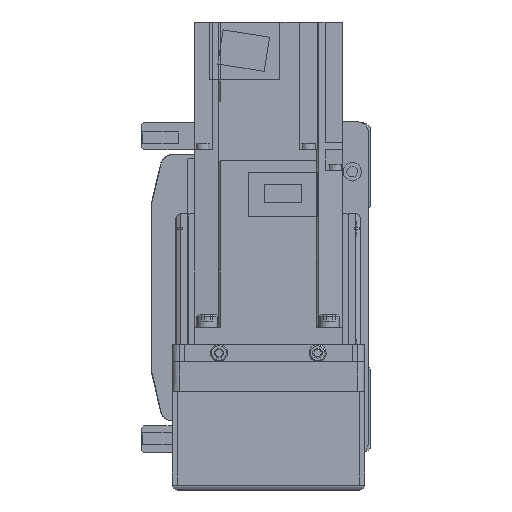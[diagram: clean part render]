
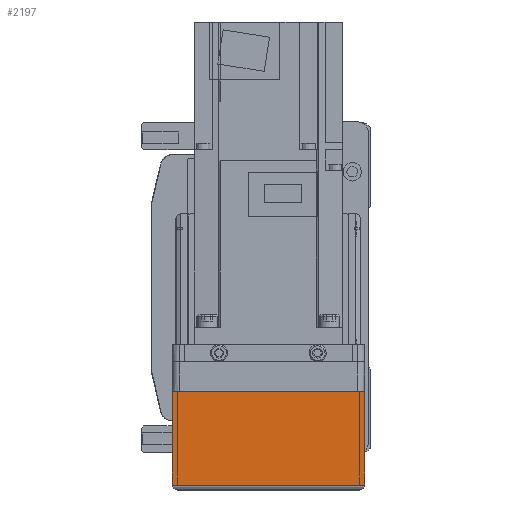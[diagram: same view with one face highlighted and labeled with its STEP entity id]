
A CAD part, left-side view. The second image highlights one B-rep face of the part: STEP entity #2197.
In plain terms, the highlighted planar face has unit normal (-1, 0, 0).
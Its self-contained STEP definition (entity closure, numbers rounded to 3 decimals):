
#2197 = ADVANCED_FACE( '', ( #5244 ), #5245, .F. );
#5244 = FACE_OUTER_BOUND( '', #9244, .T. );
#5245 = PLANE( '', #9245 );
#9244 = EDGE_LOOP( '', ( #15569, #15570, #15571, #15572 ) );
#9245 = AXIS2_PLACEMENT_3D( '', #15573, #15574, #15575 );
#15569 = ORIENTED_EDGE( '', *, *, #22428, .F. );
#15570 = ORIENTED_EDGE( '', *, *, #22993, .F. );
#15571 = ORIENTED_EDGE( '', *, *, #24242, .T. );
#15572 = ORIENTED_EDGE( '', *, *, #24243, .F. );
#15573 = CARTESIAN_POINT( '', ( -158., 36., 7. ) );
#15574 = DIRECTION( '', ( 1., 0., 0. ) );
#15575 = DIRECTION( '', ( 0., 0., -1. ) );
#22428 = EDGE_CURVE( '', #26176, #26682, #26683, .T. );
#22993 = EDGE_CURVE( '', #27684, #26176, #27686, .T. );
#24242 = EDGE_CURVE( '', #27684, #29076, #29682, .T. );
#24243 = EDGE_CURVE( '', #26682, #29076, #29683, .T. );
#26176 = VERTEX_POINT( '', #32172 );
#26682 = VERTEX_POINT( '', #32887 );
#26683 = LINE( '', #32888, #32889 );
#27684 = VERTEX_POINT( '', #34479 );
#27686 = LINE( '', #34482, #34483 );
#29076 = VERTEX_POINT( '', #37011 );
#29682 = LINE( '', #37948, #37949 );
#29683 = LINE( '', #37950, #37951 );
#32172 = CARTESIAN_POINT( '', ( -158., 39., -12.1 ) );
#32887 = CARTESIAN_POINT( '', ( -158., -39., -12.1 ) );
#32888 = CARTESIAN_POINT( '', ( -158., 50., -12.1 ) );
#32889 = VECTOR( '', #42084, 1000. );
#34479 = CARTESIAN_POINT( '', ( -158., 39., -50. ) );
#34482 = CARTESIAN_POINT( '', ( -158., 39., -50. ) );
#34483 = VECTOR( '', #42907, 1000. );
#37011 = CARTESIAN_POINT( '', ( -158., -39., -50. ) );
#37948 = CARTESIAN_POINT( '', ( -158., 40., -50. ) );
#37949 = VECTOR( '', #44430, 1000. );
#37950 = CARTESIAN_POINT( '', ( -158., -39., -12.1 ) );
#37951 = VECTOR( '', #44431, 1000. );
#42084 = DIRECTION( '', ( 0., -1., 0. ) );
#42907 = DIRECTION( '', ( 0., 0., 1. ) );
#44430 = DIRECTION( '', ( 0., -1., 0. ) );
#44431 = DIRECTION( '', ( 0., 0., -1. ) );
